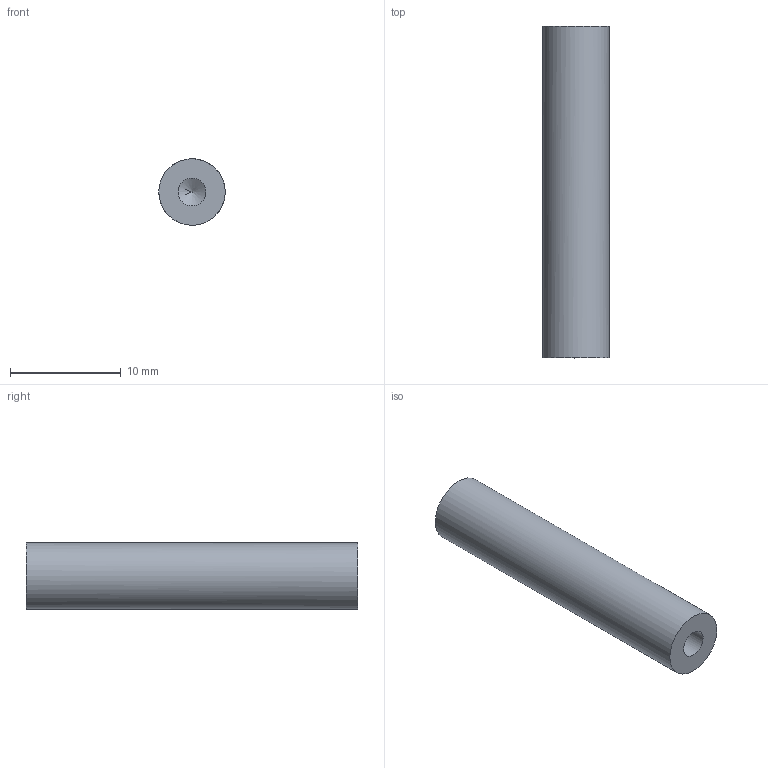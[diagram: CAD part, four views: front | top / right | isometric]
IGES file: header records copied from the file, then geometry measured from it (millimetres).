
Global section: file name: C30-RO-6-30; native system: Autodesk Inventor 2016; preprocessor: unknown; author: e.nonaka; date: 20170509.110438; units: millimetre
Bounding box: 6 x 30 x 6 mm (x, y, z)
Volume: 768.3 mm3; surface area: 750.4 mm2
Topology: 1 solids, 1 shells, 7 faces, 17 edges, 12 vertices
Faces by surface type: bspline 7
